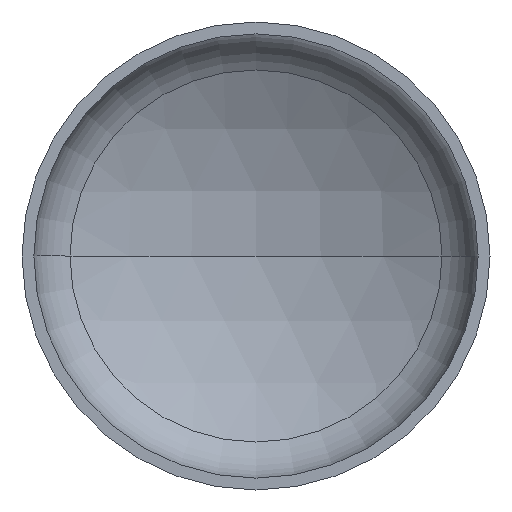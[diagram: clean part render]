
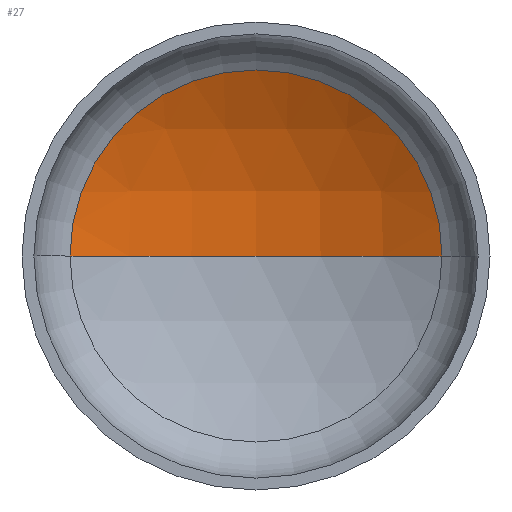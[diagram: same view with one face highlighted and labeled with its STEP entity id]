
A CAD part, front view. The second image highlights one B-rep face of the part: STEP entity #27.
In plain terms, the highlighted spherical face has radius 1200 mm.
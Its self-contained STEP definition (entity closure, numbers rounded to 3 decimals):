
#10 = EDGE_LOOP ( 'NONE', ( #105, #76, #60 ) ) ;
#18 = AXIS2_PLACEMENT_3D ( 'NONE', #208, #290, #87 ) ;
#27 = ADVANCED_FACE ( 'NONE', ( #384 ), #156, .F. ) ;
#39 = VERTEX_POINT ( 'NONE', #292 ) ;
#60 = ORIENTED_EDGE ( 'NONE', *, *, #167, .T. ) ;
#63 = AXIS2_PLACEMENT_3D ( 'NONE', #206, #220, #218 ) ;
#73 = AXIS2_PLACEMENT_3D ( 'NONE', #106, #163, #312 ) ;
#76 = ORIENTED_EDGE ( 'NONE', *, *, #182, .T. ) ;
#87 = DIRECTION ( 'NONE',  ( 1., 0., 0. ) ) ;
#99 = VERTEX_POINT ( 'NONE', #249 ) ;
#104 = AXIS2_PLACEMENT_3D ( 'NONE', #363, #295, #356 ) ;
#105 = ORIENTED_EDGE ( 'NONE', *, *, #349, .F. ) ;
#106 = CARTESIAN_POINT ( 'NONE',  ( 0., 319.595, 0. ) ) ;
#135 = CIRCLE ( 'NONE', #63, 1200. ) ;
#156 = SPHERICAL_SURFACE ( 'NONE', #104, 1200. ) ;
#163 = DIRECTION ( 'NONE',  ( 0., -1., 0. ) ) ;
#167 = EDGE_CURVE ( 'NONE', #278, #39, #404, .T. ) ;
#175 = CIRCLE ( 'NONE', #18, 1200. ) ;
#182 = EDGE_CURVE ( 'NONE', #99, #278, #135, .T. ) ;
#206 = CARTESIAN_POINT ( 'NONE',  ( 0., -721.77, 0. ) ) ;
#208 = CARTESIAN_POINT ( 'NONE',  ( 0., -721.77, 0. ) ) ;
#218 = DIRECTION ( 'NONE',  ( -1., 0., 0. ) ) ;
#220 = DIRECTION ( 'NONE',  ( 0., 0., -1. ) ) ;
#249 = CARTESIAN_POINT ( 'NONE',  ( 0., 478.23, 0. ) ) ;
#278 = VERTEX_POINT ( 'NONE', #399 ) ;
#290 = DIRECTION ( 'NONE',  ( 0., 0., 1. ) ) ;
#292 = CARTESIAN_POINT ( 'NONE',  ( -596.289, 319.595, 0. ) ) ;
#295 = DIRECTION ( 'NONE',  ( 0., 0., -1. ) ) ;
#312 = DIRECTION ( 'NONE',  ( 1., 0., 0. ) ) ;
#349 = EDGE_CURVE ( 'NONE', #99, #39, #175, .T. ) ;
#356 = DIRECTION ( 'NONE',  ( -1., 0., 0. ) ) ;
#363 = CARTESIAN_POINT ( 'NONE',  ( 0., -721.77, 0. ) ) ;
#384 = FACE_OUTER_BOUND ( 'NONE', #10, .T. ) ;
#399 = CARTESIAN_POINT ( 'NONE',  ( 596.289, 319.595, 0. ) ) ;
#404 = CIRCLE ( 'NONE', #73, 596.289 ) ;
